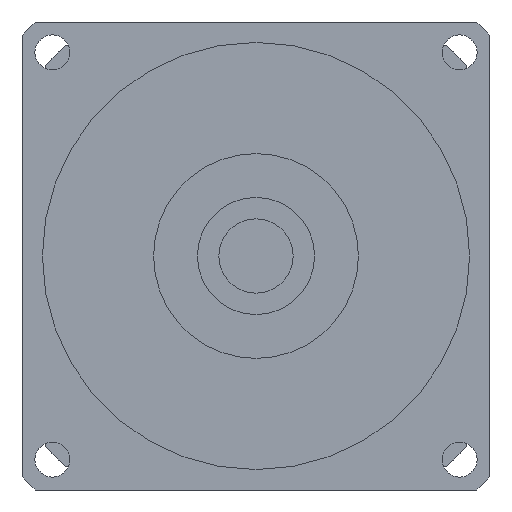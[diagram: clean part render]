
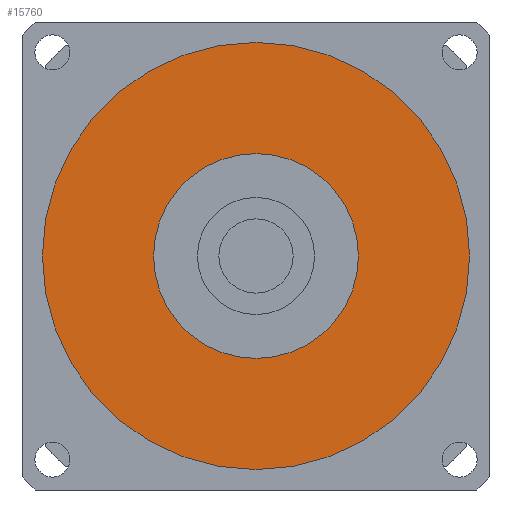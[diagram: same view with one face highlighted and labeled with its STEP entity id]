
A CAD part, left-side view. The second image highlights one B-rep face of the part: STEP entity #15760.
In plain terms, the highlighted planar face has unit normal (-1, 0, 0) as drawn and (0, 0, -1) by its records, which use the part's own axes.
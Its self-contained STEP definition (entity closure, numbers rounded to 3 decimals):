
#15150=CARTESIAN_POINT('',(0.,0.,
-88.5));
#15160=DIRECTION('',(0.,0.,1.));
#15170=DIRECTION('',(0.,-1.,0.));
#15180=AXIS2_PLACEMENT_3D('',#15150,#15160,#15170);
#15190=CIRCLE('',#15180,17.5);
#15200=CARTESIAN_POINT('',(0.,-17.5,-88.5));
#15210=VERTEX_POINT('',#15200);
#15220=CARTESIAN_POINT('',(17.5,0.,-88.5));
#15230=VERTEX_POINT('',#15220);
#15240=EDGE_CURVE('',#15210,#15230,#15190,.T.);
#15370=CARTESIAN_POINT('',(-17.5,0.,-88.5));
#15380=VERTEX_POINT('',#15370);
#15410=EDGE_CURVE('',#15380,#15210,#15190,.T.);
#15460=CARTESIAN_POINT('',(0.,0.,
-88.5));
#15470=DIRECTION('',(0.,0.,1.));
#15480=DIRECTION('',(-1.,0.,0.));
#15490=AXIS2_PLACEMENT_3D('',#15460,#15470,#15480);
#15500=PLANE('',#15490);
#15510=CARTESIAN_POINT('',(0.,0.,
-88.5));
#15520=DIRECTION('',(0.,0.,1.));
#15530=DIRECTION('',(0.,-1.,0.));
#15540=AXIS2_PLACEMENT_3D('',#15510,#15520,#15530);
#15550=CIRCLE('',#15540,36.51);
#15560=CARTESIAN_POINT('',(0.,-36.51,-88.5));
#15570=VERTEX_POINT('',#15560);
#15580=CARTESIAN_POINT('',(36.51,0.,-88.5));
#15590=VERTEX_POINT('',#15580);
#15600=EDGE_CURVE('',#15570,#15590,#15550,.T.);
#15610=ORIENTED_EDGE('',*,*,#15600,.F.);
#15620=CARTESIAN_POINT('',(-36.51,0.,-88.5));
#15630=VERTEX_POINT('',#15620);
#15640=EDGE_CURVE('',#15590,#15630,#15550,.T.);
#15650=ORIENTED_EDGE('',*,*,#15640,.F.);
#15660=EDGE_CURVE('',#15630,#15570,#15550,.T.);
#15670=ORIENTED_EDGE('',*,*,#15660,.F.);
#15680=EDGE_LOOP('',(#15670,#15650,#15610));
#15690=FACE_OUTER_BOUND('',#15680,.T.);
#15700=EDGE_CURVE('',#15230,#15380,#15190,.T.);
#15710=ORIENTED_EDGE('',*,*,#15700,.T.);
#15720=ORIENTED_EDGE('',*,*,#15240,.T.);
#15730=ORIENTED_EDGE('',*,*,#15410,.T.);
#15740=EDGE_LOOP('',(#15730,#15720,#15710));
#15750=FACE_BOUND('',#15740,.T.);
#15760=ADVANCED_FACE('',(#15690,#15750),#15500,.F.);
